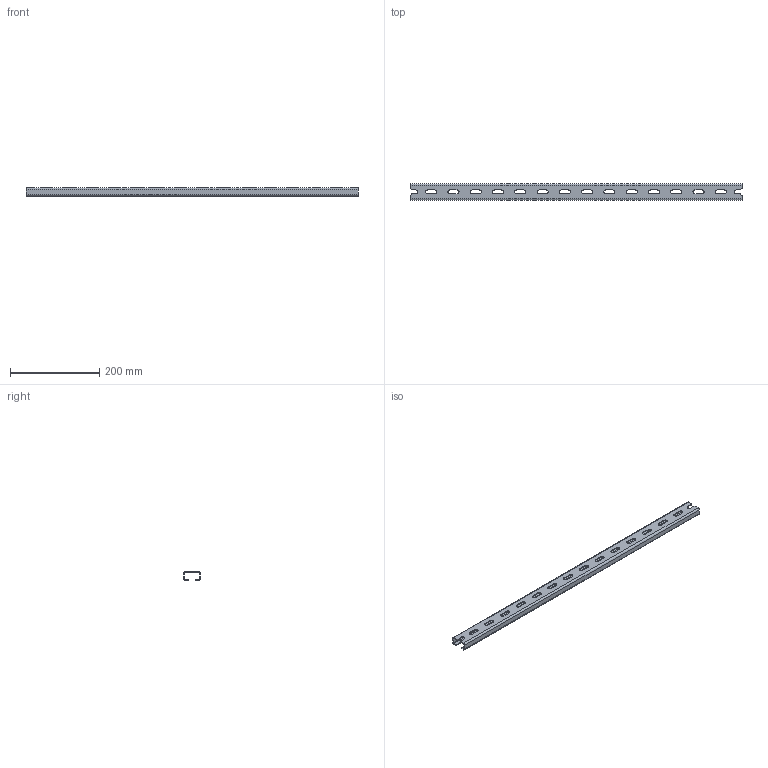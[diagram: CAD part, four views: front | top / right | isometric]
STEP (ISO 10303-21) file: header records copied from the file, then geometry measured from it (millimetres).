
FILE_DESCRIPTION (( 'STEP AP214' ), '1' );
FILE_NAME ('MTD 80 C Òðàâåðñà ìîíòàæíàÿ.STEP', '2023-12-11T04:29:22', ( '' ), ( '' ), 'SwSTEP 2.0', 'SolidWorks 2019', '' );
FILE_SCHEMA (( 'AUTOMOTIVE_DESIGN' ));
Length unit declared in the file: millimetre
Products named in the file (1): MTD 80 C Òðàâåðñà ìîíòàæíàÿ
Bounding box: 745 x 38 x 18.5 mm (x, y, z)
Volume: 116404.8 mm3; surface area: 121510.7 mm2
Topology: 1 solids, 1 shells, 133 faces, 361 edges, 230 vertices
Faces by surface type: plane 68, cylinder 65
Entity records: 4279 total; most frequent: DIRECTION 759, CARTESIAN_POINT 725, ORIENTED_EDGE 722, EDGE_CURVE 361, AXIS2_PLACEMENT_3D 264, LINE 231, VECTOR 231, VERTEX_POINT 230
